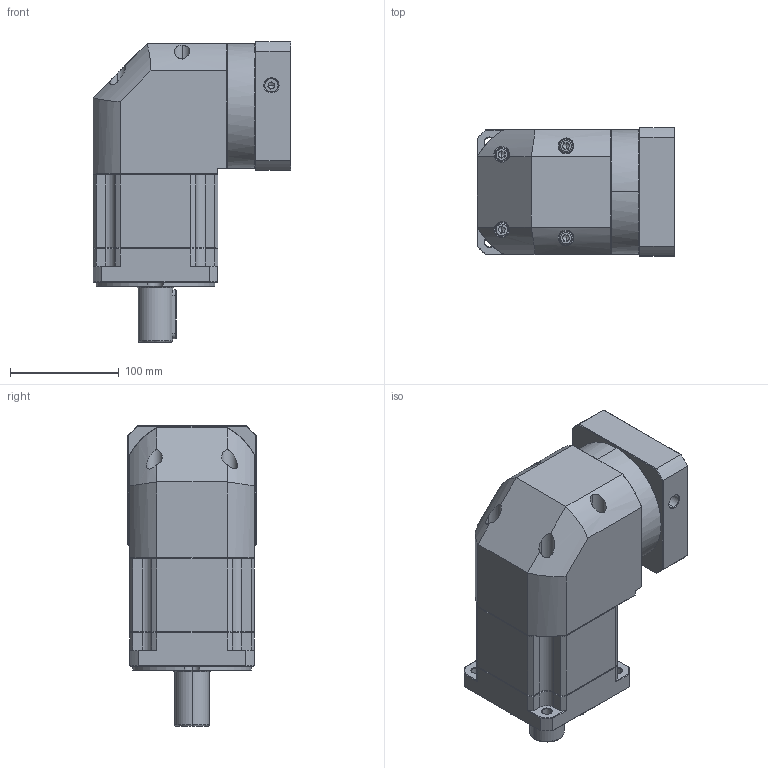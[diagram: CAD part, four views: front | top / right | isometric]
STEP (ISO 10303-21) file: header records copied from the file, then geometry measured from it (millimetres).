
FILE_DESCRIPTION (( 'STEP AP214' ), '1' );
FILE_NAME ('ZBR115A-D32-L2-P2-19-95-115-M6.step', '2023-08-26T12:37:52', ( '' ), ( '' ), 'SwSTEP 2.0', 'SolidWorks 2016', '' );
FILE_SCHEMA (( 'AUTOMOTIVE_DESIGN' ));
Length unit declared in the file: millimetre
Products named in the file (1): ZBR115A-D32-L2-P2-19-95-115-M6
Bounding box: 182.4 x 118 x 276.5 mm (x, y, z)
Volume: 3208215.2 mm3; surface area: 255899.1 mm2
Topology: 6 solids, 6 shells, 2368 faces, 6202 edges, 3937 vertices
Faces by surface type: plane 1138, bspline 428, cylinder 424, cone 370, torus 8
Entity records: 128714 total; most frequent: CARTESIAN_POINT 47962, ORIENTED_EDGE 12344, DIRECTION 9746, EDGE_CURVE 6172, LINE 3972, VECTOR 3972, VERTEX_POINT 3937, AXIS2_PLACEMENT_3D 2887
